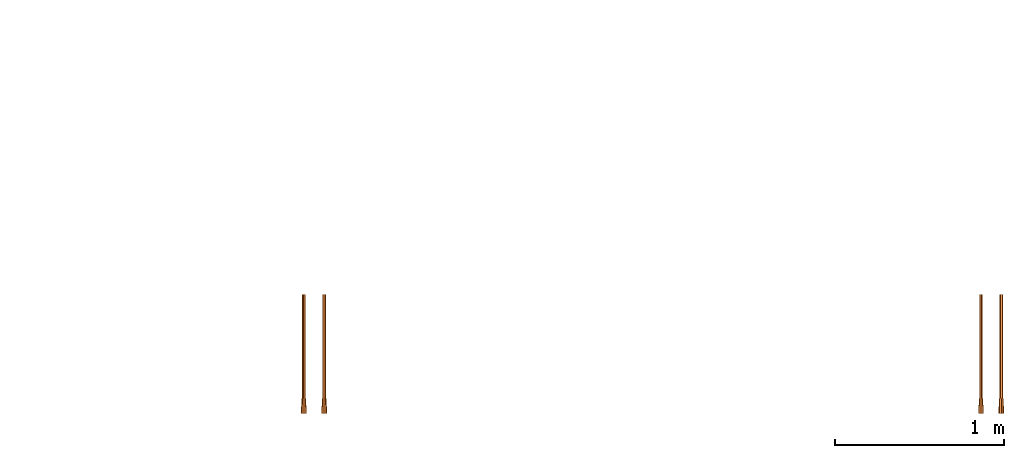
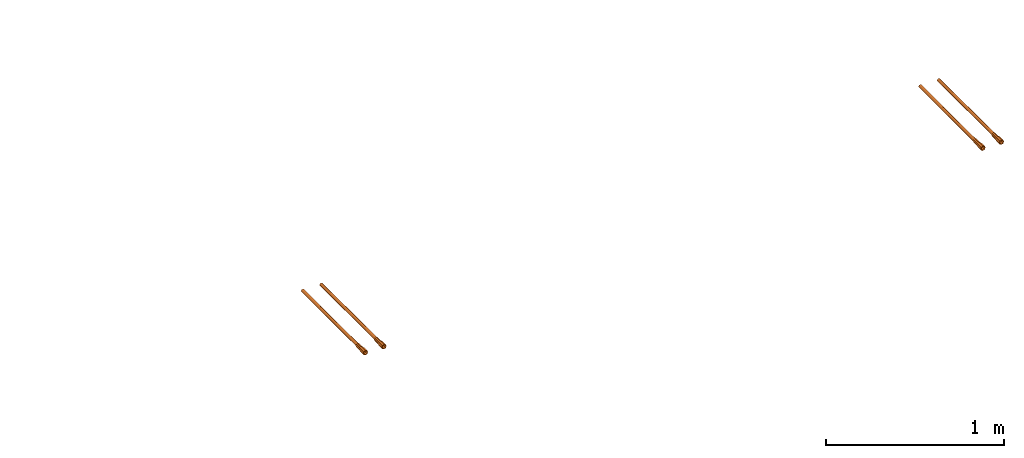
# One storey, part 8 of 8: 4 proxies.
"""IFC2X3 building model written with IfcOpenShell, lengths in millimetres."""

from ifc_helpers import new_model, entity, si_unit, converted_unit, derived_unit, direction, frame, frame_2d, origin, place, context, subcontext, project, spatial, circle, extrude, faceted_brep, source, transform, mapped, type_object, type_shapes, element, save


model = new_model("IFC2X3")

# Units and contexts
model_context = context("Model", 3, precision=0.01, world=origin(), true_north=direction((6.12303176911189e-17, 1.0)))
body_context = subcontext(model_context, "Body", "Model", "MODEL_VIEW")
ifc_project = project(units=[si_unit("LENGTHUNIT", "METRE", prefix="MILLI"), si_unit("AREAUNIT", "SQUARE_METRE"), si_unit("VOLUMEUNIT", "CUBIC_METRE"), converted_unit("PLANEANGLEUNIT", "DEGREE", entity("IfcRatioMeasure", 0.0174532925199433), si_unit("PLANEANGLEUNIT", "RADIAN"), dimensions=[0, 0, 0, 0, 0, 0, 0]), si_unit("MASSUNIT", "GRAM", prefix="KILO"), derived_unit("MASSDENSITYUNIT", [(si_unit("MASSUNIT", "GRAM", prefix="KILO"), 1), (si_unit("LENGTHUNIT", "METRE"), -3)]), si_unit("TIMEUNIT", "SECOND"), si_unit("FREQUENCYUNIT", "HERTZ"), si_unit("THERMODYNAMICTEMPERATUREUNIT", "DEGREE_CELSIUS"), derived_unit("THERMALTRANSMITTANCEUNIT", [(si_unit("MASSUNIT", "GRAM", prefix="KILO"), 1), (si_unit("THERMODYNAMICTEMPERATUREUNIT", "KELVIN"), -1), (si_unit("TIMEUNIT", "SECOND"), -3)]), derived_unit("VOLUMETRICFLOWRATEUNIT", [(si_unit("LENGTHUNIT", "METRE"), 3), (si_unit("TIMEUNIT", "SECOND"), -1)]), si_unit("ELECTRICCURRENTUNIT", "AMPERE"), si_unit("ELECTRICVOLTAGEUNIT", "VOLT"), si_unit("POWERUNIT", "WATT"), si_unit("FORCEUNIT", "NEWTON", prefix="KILO"), si_unit("ILLUMINANCEUNIT", "LUX"), si_unit("LUMINOUSFLUXUNIT", "LUMEN"), si_unit("LUMINOUSINTENSITYUNIT", "CANDELA"), derived_unit("USERDEFINED", [(si_unit("MASSUNIT", "GRAM", prefix="KILO"), -1), (si_unit("LENGTHUNIT", "METRE"), -2), (si_unit("TIMEUNIT", "SECOND"), 3), (si_unit("LUMINOUSFLUXUNIT", "LUMEN"), 1)]), derived_unit("LINEARVELOCITYUNIT", [(si_unit("LENGTHUNIT", "METRE"), 1), (si_unit("TIMEUNIT", "SECOND"), -1)]), si_unit("PRESSUREUNIT", "PASCAL"), derived_unit("USERDEFINED", [(si_unit("LENGTHUNIT", "METRE"), -2), (si_unit("MASSUNIT", "GRAM", prefix="KILO"), 1), (si_unit("TIMEUNIT", "SECOND"), -2)])], contexts=[model_context])

# Site, building, storey
site_placement = place(None, origin())
site = spatial("IfcSite", under=ifc_project, at=site_placement, Name="Default", CompositionType="ELEMENT")
building_placement = place(site_placement, origin())
building = spatial("IfcBuilding", under=site, at=building_placement, Name="niet gebruiken", CompositionType="ELEMENT")
storey_placement = place(building_placement, frame((0.0, 0.0, 3000.0)))
storey = spatial("IfcBuildingStorey", under=building, at=storey_placement, Name="00a eerste tussenverdieping", CompositionType="ELEMENT", Elevation=3000.00000000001)

# Proxies
building_element_proxy_type_1 = type_object("IfcBuildingElementProxyType", Name="Ø20/M24x705", PredefinedType="NOTDEFINED")
shared_shape_1 = source(origin(), body_context, "Body", "SolidModel", [
    extrude(circle(Radius=10.0, at=frame_2d((0.0, -1.61554457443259e-14), x_axis=(1.0, 0.0))), frame((34.9769027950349, 0.0, -705.0)), (0.0, 0.0, 1.0), 615.0),
    extrude(circle(Radius=10.0, at=frame_2d((0.0, -1.61554457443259e-14), x_axis=(1.0, 0.0))), frame((34.9769027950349, 0.0, -705.0)), (0.0, 0.0, 1.0), 615.0),
    faceted_brep([(29.3200485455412, 13.6568542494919, 0.0), (32.1484756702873, 14.8284271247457, 0.0), (34.9769027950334, 16.0, 0.0), (34.9769027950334, 16.0, -38.0), (32.1484756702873, 14.8284271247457, -38.0), (29.3200485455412, 13.6568542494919, -38.0), (26.4916214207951, 12.4852813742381, -38.0), (23.663194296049, 11.3137084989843, -38.0), (23.663194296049, 11.3137084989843, 0.0), (26.4916214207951, 12.4852813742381, 0.0), (49.805329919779, 2.82842712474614, 0.0), (50.9769027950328, 0.0, 0.0), (50.9769027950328, 0.0, -38.0), (50.0199937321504, 2.31018283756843, -38.0), (49.7680552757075, 2.91841607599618, -38.0), (48.6337570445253, 5.65685424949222, -38.0), (48.5592077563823, 5.83683215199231, -38.0), (47.4621841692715, 8.48528137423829, -38.0), (46.2906112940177, 11.3137084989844, -38.0), (46.2906112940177, 11.3137084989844, 0.0), (47.4621841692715, 8.48528137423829, 0.0), (48.6337570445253, 5.65685424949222, 0.0), (21.3200485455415, 5.65685424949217, 0.0), (22.4916214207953, 8.48528137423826, 0.0), (22.4916214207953, 8.48528137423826, -38.0), (22.2769576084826, 7.96703708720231, -38.0), (21.3200485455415, 5.65685424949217, -38.0), (20.8907209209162, 4.62036567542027, -38.0), (20.1484756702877, 2.82842712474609, -38.0), (18.976902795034, 0.0, -38.0), (18.976902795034, 0.0, 0.0), (20.1484756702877, 2.82842712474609, 0.0), (40.6337570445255, 13.6568542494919, 0.0), (43.4621841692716, 12.4852813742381, 0.0), (43.4621841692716, 12.4852813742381, -38.0), (40.6337570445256, 13.6568542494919, -38.0), (37.8053299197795, 14.8284271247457, -38.0), (37.8053299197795, 14.8284271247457, 0.0), (49.063084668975, -4.62036567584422, 0.0), (47.6768479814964, -7.96703708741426, 0.0), (46.2906112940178, -11.3137084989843, 0.0), (46.2906112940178, -11.3137084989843, -38.0), (47.4621841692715, -8.48528137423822, -38.0), (48.6337570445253, -5.65685424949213, -38.0), (49.8053299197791, -2.82842712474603, -38.0), (29.3200485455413, -13.6568542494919, 0.0), (26.4916214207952, -12.4852813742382, 0.0), (23.6631942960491, -11.3137084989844, 0.0), (23.6631942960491, -11.3137084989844, -38.0), (26.4916214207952, -12.4852813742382, -38.0), (29.3200485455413, -13.6568542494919, -38.0), (32.1484756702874, -14.8284271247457, -38.0), (34.9769027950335, -16.0, -38.0), (34.9769027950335, -16.0, 0.0), (32.1484756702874, -14.8284271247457, 0.0), (37.8053299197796, -14.8284271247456, -38.0), (40.6337570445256, -13.6568542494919, -38.0), (43.4621841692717, -12.4852813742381, -38.0), (43.4621841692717, -12.4852813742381, 0.0), (40.6337570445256, -13.6568542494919, 0.0), (37.8053299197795, -14.8284271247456, 0.0), (22.4916214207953, -8.48528137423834, 0.0), (21.3200485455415, -5.65685424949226, 0.0), (20.1484756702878, -2.82842712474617, 0.0), (19.9338118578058, -2.31018283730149, -38.0), (20.1857498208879, -2.91841488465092, -38.0), (21.3200485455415, -5.65685424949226, -38.0), (22.4916214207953, -8.48528137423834, -38.0), (25.7845146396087, 9.19238815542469, -52.0), (24.8628969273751, 6.96740617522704, -52.0), (23.9412792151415, 4.7424241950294, -52.0), (22.9590910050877, 2.3712120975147, -52.0), (21.976902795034, 0.0, -52.0), (44.1692909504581, 9.19238815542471, -52.0), (47.9769027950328, 0.0, -52.0), (46.994714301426, 2.37121278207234, -52.0), (46.0730968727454, 4.59619407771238, -52.0), (45.1211939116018, 6.89429111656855, -52.0), (34.9769027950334, 13.0, -52.0), (32.6788057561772, 12.0480970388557, -52.0), (30.380708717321, 11.096194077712, -52.0), (28.0826116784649, 10.1442911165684, -52.0), (37.2749998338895, 12.0480970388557, -52.0), (41.8711939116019, 10.1442911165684, -52.0), (39.5730968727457, 11.0961940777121, -52.0), (44.1692909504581, -9.19238815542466, -52.0), (45.0909086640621, -6.96740617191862, -52.0), (45.3722781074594, -6.28812024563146, -52.0), (46.0125263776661, -4.74242418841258, -52.0), (46.5752652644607, -3.38385233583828, -52.0), (46.9947145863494, -2.37121209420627, -52.0), (28.0826116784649, -10.1442911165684, -52.0), (30.3807087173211, -11.0961940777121, -52.0), (32.6788057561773, -12.0480970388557, -52.0), (34.9769027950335, -13.0, -52.0), (25.7845146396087, -9.19238815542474, -52.0), (37.2749998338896, -12.0480970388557, -52.0), (39.5730968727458, -11.096194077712, -52.0), (41.871193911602, -10.1442911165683, -52.0), (22.9288057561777, -2.29809703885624, -52.0), (23.8807087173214, -4.59619407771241, -52.0), (24.8326116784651, -6.89429111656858, -52.0), (32.6788057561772, 12.0480970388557, -90.0), (30.380708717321, 11.096194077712, -90.0), (28.0826116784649, 10.1442911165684, -90.0), (25.7845146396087, 9.19238815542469, -90.0), (34.9769027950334, 13.0, -90.0), (47.9769027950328, 0.0, -90.0), (47.2760840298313, 1.691926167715, -90.0), (46.0730968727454, 4.59619407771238, -90.0), (45.1211939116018, 6.89429111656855, -90.0), (44.1692909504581, 9.19238815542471, -90.0), (23.3785403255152, 3.38385233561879, -90.0), (21.976902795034, 0.0, -90.0), (24.5815274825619, 6.28812024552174, -90.0), (41.8711939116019, 10.1442911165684, -90.0), (39.5730968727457, 11.0961940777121, -90.0), (37.2749998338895, 12.0480970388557, -90.0), (46.0730968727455, -4.5961940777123, -90.0), (47.0249998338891, -2.29809703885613, -90.0), (44.1692909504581, -9.19238815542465, -90.0), (45.1211939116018, -6.89429111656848, -90.0), (25.7845146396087, -9.19238815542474, -90.0), (28.0826116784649, -10.1442911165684, -90.0), (30.3807087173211, -11.0961940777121, -90.0), (32.6788057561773, -12.0480970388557, -90.0), (34.9769027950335, -13.0, -90.0), (37.2749998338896, -12.0480970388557, -90.0), (39.5730968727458, -11.096194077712, -90.0), (41.871193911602, -10.1442911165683, -90.0), (22.6777215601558, -1.6919261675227, -90.0), (23.8807087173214, -4.59619407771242, -90.0), (24.8326116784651, -6.89429111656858, -90.0), (34.9769027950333, 0.0, -90.0), (34.9769027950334, 0.0, -38.0), (47.9769027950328, 0.0, -38.0), (47.2760840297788, 1.69192616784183, -38.0), (46.0730968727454, 4.59619407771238, -38.0), (45.1211939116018, 6.89429111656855, -38.0), (44.1692909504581, 9.19238815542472, -38.0), (41.8711939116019, 10.1442911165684, -38.0), (39.5730968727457, 11.0961940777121, -38.0), (37.2749998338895, 12.0480970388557, -38.0), (34.9769027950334, 13.0, -38.0), (32.6788057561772, 12.0480970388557, -38.0), (30.380708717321, 11.096194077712, -38.0), (28.0826116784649, 10.1442911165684, -38.0), (25.7845146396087, 9.19238815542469, -38.0), (24.5815274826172, 6.28812024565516, -38.0), (23.3785403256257, 3.38385233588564, -38.0), (21.976902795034, 0.0, -38.0), (22.6777215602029, -1.69192616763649, -38.0), (47.0249998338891, -2.29809703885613, -38.0), (46.0730968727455, -4.59619407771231, -38.0), (45.1211939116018, -6.89429111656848, -38.0), (44.1692909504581, -9.19238815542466, -38.0), (41.871193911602, -10.1442911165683, -38.0), (39.5730968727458, -11.096194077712, -38.0), (37.2749998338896, -12.0480970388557, -38.0), (34.9769027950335, -13.0, -38.0), (23.8807087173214, -4.59619407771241, -38.0), (24.8326116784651, -6.89429111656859, -38.0), (25.7845146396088, -9.19238815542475, -38.0), (28.0826116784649, -10.1442911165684, -38.0), (30.3807087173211, -11.0961940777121, -38.0), (32.6788057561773, -12.0480970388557, -38.0), (32.6788057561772, 12.0480970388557, 0.0), (30.380708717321, 11.096194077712, 0.0), (28.0826116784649, 10.1442911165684, 0.0), (25.7845146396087, 9.19238815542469, 0.0), (34.9769027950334, 13.0, 0.0), (47.9769027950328, 0.0, 0.0), (47.0249998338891, 2.29809703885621, 0.0), (46.0730968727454, 4.59619407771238, 0.0), (45.1211939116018, 6.89429111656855, 0.0), (44.1692909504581, 9.19238815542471, 0.0), (24.832611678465, 6.89429111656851, 0.0), (23.8807087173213, 4.59619407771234, 0.0), (22.9288057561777, 2.29809703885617, 0.0), (21.976902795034, 0.0, 0.0), (37.2749998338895, 12.0480970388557, 0.0), (41.8711939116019, 10.1442911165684, 0.0), (39.5730968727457, 11.0961940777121, 0.0), (44.1692909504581, -9.19238815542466, 0.0), (45.3722781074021, -6.28812024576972, 0.0), (46.5752652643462, -3.38385233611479, 0.0), (32.6788057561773, -12.0480970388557, 0.0), (34.9769027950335, -13.0, 0.0), (25.7845146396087, -9.19238815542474, 0.0), (28.0826116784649, -10.1442911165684, 0.0), (30.3807087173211, -11.0961940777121, 0.0), (37.2749998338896, -12.0480970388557, 0.0), (39.5730968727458, -11.096194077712, 0.0), (41.871193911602, -10.1442911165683, 0.0), (22.9288057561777, -2.29809703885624, 0.0), (23.8807087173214, -4.59619407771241, 0.0), (24.8326116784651, -6.89429111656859, 0.0)], [[[0, 1, 2, 3, 4, 5, 6, 7, 8, 9]], [[10, 11, 12, 13, 14, 15, 16, 17, 18, 19, 20, 21]], [[22, 23, 8, 7, 24, 25, 26, 27, 28, 29, 30, 31]], [[32, 33, 19, 18, 34, 35, 36, 3, 2, 37]], [[38, 39, 40, 41, 42, 43, 44, 12, 11]], [[45, 46, 47, 48, 49, 50, 51, 52, 53, 54]], [[53, 52, 55, 56, 57, 41, 40, 58, 59, 60]], [[48, 47, 61, 62, 63, 30, 29, 64, 65, 66, 67]], [[7, 68, 69, 70, 71, 72, 29, 28, 27, 26, 25, 24]], [[73, 18, 17, 16, 15, 14, 13, 12, 74, 75, 76, 77]], [[4, 3, 78, 79, 80, 81, 68, 7, 6, 5]], [[82, 78, 3, 36, 35, 34, 18, 73, 83, 84]], [[41, 85, 86, 87, 88, 89, 90, 74, 12, 44, 43, 42]], [[91, 92, 93, 94, 52, 51, 50, 49, 48, 95]], [[55, 52, 94, 96, 97, 98, 85, 41, 57, 56]], [[99, 100, 101, 95, 48, 67, 66, 65, 64, 29, 72]], [[102, 103, 104, 105, 68, 81, 80, 79, 78, 106]], [[75, 74, 107, 108, 109, 110, 111, 73, 77, 76]], [[112, 113, 72, 71, 70, 69, 68, 105, 114]], [[84, 83, 73, 111, 115, 116, 117, 106, 78, 82]], [[118, 119, 107, 74, 90, 89, 88, 87, 86, 85, 120, 121]], [[92, 91, 95, 122, 123, 124, 125, 126, 94, 93]], [[94, 126, 127, 128, 129, 120, 85, 98, 97, 96]], [[122, 95, 101, 100, 99, 72, 113, 130, 131, 132]], [[133, 111, 110]], [[133, 110, 109]], [[133, 109, 108]], [[133, 108, 107]], [[133, 107, 119]], [[133, 115, 111]], [[133, 116, 115]], [[133, 117, 116]], [[133, 106, 117]], [[133, 102, 106]], [[133, 103, 102]], [[133, 104, 103]], [[133, 105, 104]], [[133, 114, 105]], [[133, 112, 114]], [[133, 113, 112]], [[133, 119, 118]], [[133, 118, 121]], [[133, 121, 120]], [[133, 120, 129]], [[133, 129, 128]], [[133, 128, 127]], [[133, 127, 126]], [[133, 126, 125]], [[133, 130, 113]], [[133, 131, 130]], [[133, 132, 131]], [[133, 122, 132]], [[133, 125, 124]], [[133, 124, 123]], [[133, 123, 122]], [[134, 135, 136]], [[134, 136, 137]], [[134, 137, 138]], [[134, 138, 139]], [[134, 139, 140]], [[134, 140, 141]], [[134, 141, 142]], [[134, 142, 143]], [[134, 143, 144]], [[134, 144, 145]], [[134, 145, 146]], [[134, 146, 147]], [[134, 147, 148]], [[134, 148, 149]], [[134, 149, 150]], [[134, 150, 151]], [[134, 152, 135]], [[134, 153, 152]], [[134, 154, 153]], [[134, 155, 154]], [[134, 156, 155]], [[134, 157, 156]], [[134, 158, 157]], [[134, 159, 158]], [[134, 151, 160]], [[134, 160, 161]], [[134, 161, 162]], [[134, 162, 163]], [[134, 163, 164]], [[134, 164, 165]], [[134, 165, 159]], [[166, 167, 168, 169, 147, 146, 145, 144, 143, 170]], [[136, 135, 171, 172, 173, 174, 175, 139, 138, 137]], [[148, 147, 169, 176, 177, 178, 179, 150, 149]], [[180, 170, 143, 142, 141, 140, 139, 175, 181, 182]], [[153, 154, 155, 183, 184, 185, 171, 135, 152]], [[186, 187, 159, 165, 164, 163, 162, 188, 189, 190]], [[158, 159, 187, 191, 192, 193, 183, 155, 156, 157]], [[161, 160, 151, 150, 179, 194, 195, 196, 188, 162]], [[171, 11, 10]], [[171, 10, 21]], [[171, 21, 20]], [[171, 20, 19]], [[19, 172, 171]], [[171, 38, 11]], [[171, 39, 38]], [[171, 40, 39]], [[40, 171, 185]], [[40, 185, 184]], [[40, 184, 183]], [[183, 58, 40]], [[183, 59, 58]], [[183, 60, 59]], [[183, 53, 60]], [[53, 183, 193]], [[53, 193, 192]], [[53, 192, 191]], [[53, 191, 187]], [[53, 187, 186]], [[53, 186, 190]], [[53, 190, 189]], [[53, 189, 188]], [[188, 54, 53]], [[188, 45, 54]], [[188, 46, 45]], [[188, 47, 46]], [[47, 188, 196]], [[47, 196, 195]], [[47, 195, 194]], [[47, 194, 179]], [[179, 61, 47]], [[179, 62, 61]], [[179, 63, 62]], [[179, 30, 63]], [[179, 31, 30]], [[179, 22, 31]], [[179, 23, 22]], [[179, 8, 23]], [[8, 179, 178]], [[8, 178, 177]], [[8, 177, 176]], [[8, 176, 169]], [[169, 9, 8]], [[169, 0, 9]], [[169, 1, 0]], [[169, 2, 1]], [[2, 169, 168]], [[2, 168, 167]], [[2, 167, 166]], [[2, 166, 170]], [[2, 170, 180]], [[2, 180, 182]], [[2, 182, 181]], [[2, 181, 175]], [[175, 19, 33]], [[19, 175, 174]], [[175, 33, 32]], [[175, 32, 37]], [[175, 37, 2]], [[19, 174, 173]], [[19, 173, 172]]]),
])
type_shapes(building_element_proxy_type_1, [shared_shape_1])
for number, where, z_axis, x_axis in (
    (1, (151775.023097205, 150.0, 2655.0), (0.0, -1.0, 0.0), (1.0, 0.0, 0.0)),
    (2, (155775.023097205, 150.0, 2655.0), (0.0, -1.0, 0.0), (1.0, 0.0, 0.0)),
):
    element("IfcBuildingElementProxy", number, at=place(storey_placement, frame(where, z_axis=z_axis, x_axis=x_axis)), inside=storey, type_object=building_element_proxy_type_1, Name="GM_Stekanker_DEMU_4010 GV:Ø20/M24x705", ObjectType="Ø20/M24x705", context=body_context, shape_type="MappedRepresentation", body=[
        mapped(shared_shape_1, transform((0.0, 0.0, 0.0), scale=1.0)),
    ])
building_element_proxy_type_2 = type_object("IfcBuildingElementProxyType", Name="Ø20/M24x705", PredefinedType="NOTDEFINED")
shared_shape_2 = source(origin(), body_context, "Body", "SolidModel", [
    extrude(circle(Radius=10.0, at=frame_2d((0.0, -4.50212443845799e-14), x_axis=(1.0, 0.0))), frame((34.9769027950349, 0.0, -705.0)), (0.0, 0.0, 1.0), 615.0),
    extrude(circle(Radius=10.0, at=frame_2d((0.0, -4.50212443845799e-14), x_axis=(1.0, 0.0))), frame((34.9769027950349, 0.0, -705.0)), (0.0, 0.0, 1.0), 615.0),
    faceted_brep([(26.4916214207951, -12.4852813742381, 0.0), (23.663194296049, -11.3137084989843, 0.0), (23.663194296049, -11.3137084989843, -38.0), (26.4916214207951, -12.4852813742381, -38.0), (29.3200485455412, -13.6568542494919, -38.0), (32.1484756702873, -14.8284271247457, -38.0), (34.9769027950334, -16.0, -38.0), (34.9769027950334, -16.0, 0.0), (32.1484756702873, -14.8284271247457, 0.0), (29.3200485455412, -13.6568542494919, 0.0), (50.0199937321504, -2.31018283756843, -38.0), (50.9769027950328, 0.0, -38.0), (50.9769027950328, 0.0, 0.0), (49.805329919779, -2.82842712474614, 0.0), (48.6337570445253, -5.65685424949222, 0.0), (47.4621841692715, -8.48528137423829, 0.0), (46.2906112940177, -11.3137084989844, 0.0), (46.2906112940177, -11.3137084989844, -38.0), (47.4621841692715, -8.48528137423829, -38.0), (48.5592077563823, -5.83683215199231, -38.0), (48.6337570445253, -5.65685424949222, -38.0), (49.7680552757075, -2.91841607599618, -38.0), (21.3200485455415, -5.65685424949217, 0.0), (20.1484756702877, -2.82842712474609, 0.0), (18.976902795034, 0.0, 0.0), (18.976902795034, 0.0, -38.0), (20.1484756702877, -2.82842712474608, -38.0), (20.8907209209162, -4.62036567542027, -38.0), (21.3200485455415, -5.65685424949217, -38.0), (22.2769576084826, -7.9670370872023, -38.0), (22.4916214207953, -8.48528137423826, -38.0), (22.4916214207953, -8.48528137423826, 0.0), (37.8053299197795, -14.8284271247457, 0.0), (37.8053299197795, -14.8284271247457, -38.0), (40.6337570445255, -13.6568542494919, -38.0), (43.4621841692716, -12.4852813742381, -38.0), (43.4621841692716, -12.4852813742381, 0.0), (40.6337570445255, -13.6568542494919, 0.0), (48.6337570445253, 5.65685424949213, -38.0), (47.4621841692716, 8.48528137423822, -38.0), (46.2906112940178, 11.3137084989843, -38.0), (46.2906112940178, 11.3137084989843, 0.0), (47.6768479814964, 7.96703708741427, 0.0), (49.063084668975, 4.62036567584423, 0.0), (49.8053299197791, 2.82842712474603, -38.0), (32.1484756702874, 14.8284271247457, 0.0), (34.9769027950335, 16.0, 0.0), (34.9769027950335, 16.0, -38.0), (32.1484756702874, 14.8284271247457, -38.0), (29.3200485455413, 13.6568542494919, -38.0), (26.4916214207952, 12.4852813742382, -38.0), (23.6631942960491, 11.3137084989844, -38.0), (23.6631942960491, 11.3137084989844, 0.0), (26.4916214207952, 12.4852813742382, 0.0), (29.3200485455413, 13.6568542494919, 0.0), (37.8053299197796, 14.8284271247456, -38.0), (37.8053299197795, 14.8284271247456, 0.0), (40.6337570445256, 13.6568542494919, 0.0), (43.4621841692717, 12.4852813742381, 0.0), (43.4621841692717, 12.4852813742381, -38.0), (40.6337570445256, 13.6568542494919, -38.0), (22.4916214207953, 8.48528137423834, -38.0), (21.3200485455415, 5.65685424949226, -38.0), (20.1857498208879, 2.91841488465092, -38.0), (19.9338118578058, 2.31018283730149, -38.0), (20.1484756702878, 2.82842712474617, 0.0), (21.3200485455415, 5.65685424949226, 0.0), (22.4916214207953, 8.48528137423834, 0.0), (24.8628969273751, -6.96740617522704, -52.0), (25.7845146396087, -9.19238815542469, -52.0), (21.976902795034, 0.0, -52.0), (22.9590910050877, -2.3712120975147, -52.0), (23.9412792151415, -4.7424241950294, -52.0), (45.1211939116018, -6.89429111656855, -52.0), (46.0730968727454, -4.59619407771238, -52.0), (46.994714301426, -2.37121278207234, -52.0), (47.9769027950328, 0.0, -52.0), (44.1692909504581, -9.19238815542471, -52.0), (34.9769027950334, -13.0, -52.0), (28.0826116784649, -10.1442911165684, -52.0), (30.380708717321, -11.096194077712, -52.0), (32.6788057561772, -12.0480970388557, -52.0), (37.2749998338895, -12.0480970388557, -52.0), (39.5730968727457, -11.0961940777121, -52.0), (41.8711939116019, -10.1442911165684, -52.0), (45.0909086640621, 6.96740617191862, -52.0), (44.1692909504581, 9.19238815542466, -52.0), (46.9947145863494, 2.37121209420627, -52.0), (46.5752652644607, 3.38385233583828, -52.0), (46.0125263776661, 4.74242418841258, -52.0), (45.3722781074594, 6.28812024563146, -52.0), (34.9769027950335, 13.0, -52.0), (32.6788057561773, 12.0480970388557, -52.0), (30.3807087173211, 11.0961940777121, -52.0), (28.0826116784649, 10.1442911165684, -52.0), (25.7845146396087, 9.19238815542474, -52.0), (41.871193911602, 10.1442911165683, -52.0), (39.5730968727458, 11.096194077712, -52.0), (37.2749998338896, 12.0480970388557, -52.0), (22.9288057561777, 2.29809703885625, -52.0), (24.8326116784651, 6.89429111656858, -52.0), (23.8807087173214, 4.59619407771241, -52.0), (25.7845146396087, -9.19238815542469, -90.0), (28.0826116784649, -10.1442911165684, -90.0), (30.380708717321, -11.096194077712, -90.0), (32.6788057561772, -12.0480970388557, -90.0), (34.9769027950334, -13.0, -90.0), (47.2760840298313, -1.691926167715, -90.0), (47.9769027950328, 0.0, -90.0), (44.1692909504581, -9.19238815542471, -90.0), (45.1211939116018, -6.89429111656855, -90.0), (46.0730968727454, -4.59619407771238, -90.0), (24.5815274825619, -6.28812024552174, -90.0), (21.976902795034, 0.0, -90.0), (23.3785403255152, -3.38385233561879, -90.0), (37.2749998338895, -12.0480970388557, -90.0), (39.5730968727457, -11.0961940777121, -90.0), (41.8711939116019, -10.1442911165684, -90.0), (46.0730968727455, 4.5961940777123, -90.0), (45.1211939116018, 6.89429111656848, -90.0), (44.1692909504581, 9.19238815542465, -90.0), (47.0249998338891, 2.29809703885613, -90.0), (34.9769027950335, 13.0, -90.0), (32.6788057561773, 12.0480970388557, -90.0), (30.3807087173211, 11.0961940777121, -90.0), (28.0826116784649, 10.1442911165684, -90.0), (25.7845146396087, 9.19238815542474, -90.0), (37.2749998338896, 12.0480970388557, -90.0), (41.871193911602, 10.1442911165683, -90.0), (39.5730968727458, 11.096194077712, -90.0), (24.8326116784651, 6.89429111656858, -90.0), (23.8807087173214, 4.59619407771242, -90.0), (22.6777215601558, 1.6919261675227, -90.0), (34.9769027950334, 0.0, -90.0), (34.9769027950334, 0.0, -38.0), (44.1692909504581, -9.19238815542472, -38.0), (45.1211939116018, -6.89429111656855, -38.0), (46.0730968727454, -4.59619407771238, -38.0), (47.2760840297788, -1.69192616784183, -38.0), (47.9769027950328, 0.0, -38.0), (47.0249998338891, 2.29809703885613, -38.0), (41.8711939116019, -10.1442911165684, -38.0), (39.5730968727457, -11.0961940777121, -38.0), (37.2749998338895, -12.0480970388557, -38.0), (34.9769027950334, -13.0, -38.0), (32.6788057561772, -12.0480970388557, -38.0), (30.380708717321, -11.096194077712, -38.0), (28.0826116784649, -10.1442911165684, -38.0), (25.7845146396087, -9.19238815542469, -38.0), (24.5815274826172, -6.28812024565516, -38.0), (23.3785403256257, -3.38385233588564, -38.0), (21.976902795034, 0.0, -38.0), (46.0730968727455, 4.59619407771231, -38.0), (45.1211939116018, 6.89429111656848, -38.0), (44.1692909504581, 9.19238815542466, -38.0), (41.871193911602, 10.1442911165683, -38.0), (39.5730968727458, 11.096194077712, -38.0), (37.2749998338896, 12.0480970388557, -38.0), (34.9769027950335, 13.0, -38.0), (32.6788057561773, 12.0480970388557, -38.0), (22.6777215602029, 1.69192616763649, -38.0), (23.8807087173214, 4.59619407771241, -38.0), (24.8326116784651, 6.89429111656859, -38.0), (25.7845146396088, 9.19238815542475, -38.0), (30.3807087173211, 11.0961940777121, -38.0), (28.0826116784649, 10.1442911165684, -38.0), (25.7845146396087, -9.19238815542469, 0.0), (28.0826116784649, -10.1442911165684, 0.0), (30.380708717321, -11.096194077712, 0.0), (32.6788057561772, -12.0480970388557, 0.0), (34.9769027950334, -13.0, 0.0), (47.0249998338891, -2.29809703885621, 0.0), (47.9769027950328, 0.0, 0.0), (44.1692909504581, -9.19238815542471, 0.0), (45.1211939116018, -6.89429111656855, 0.0), (46.0730968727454, -4.59619407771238, 0.0), (21.976902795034, 0.0, 0.0), (22.9288057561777, -2.29809703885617, 0.0), (23.8807087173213, -4.59619407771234, 0.0), (24.832611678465, -6.89429111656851, 0.0), (39.5730968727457, -11.0961940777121, 0.0), (41.8711939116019, -10.1442911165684, 0.0), (37.2749998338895, -12.0480970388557, 0.0), (46.5752652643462, 3.38385233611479, 0.0), (45.3722781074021, 6.28812024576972, 0.0), (44.1692909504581, 9.19238815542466, 0.0), (30.3807087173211, 11.0961940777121, 0.0), (28.0826116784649, 10.1442911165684, 0.0), (25.7845146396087, 9.19238815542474, 0.0), (34.9769027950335, 13.0, 0.0), (32.6788057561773, 12.0480970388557, 0.0), (41.871193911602, 10.1442911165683, 0.0), (39.5730968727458, 11.096194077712, 0.0), (37.2749998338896, 12.0480970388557, 0.0), (24.8326116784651, 6.89429111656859, 0.0), (23.8807087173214, 4.59619407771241, 0.0), (22.9288057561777, 2.29809703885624, 0.0)], [[[0, 1, 2, 3, 4, 5, 6, 7, 8, 9]], [[10, 11, 12, 13, 14, 15, 16, 17, 18, 19, 20, 21]], [[22, 23, 24, 25, 26, 27, 28, 29, 30, 2, 1, 31]], [[32, 7, 6, 33, 34, 35, 17, 16, 36, 37]], [[38, 39, 40, 41, 42, 43, 12, 11, 44]], [[45, 46, 47, 48, 49, 50, 51, 52, 53, 54]], [[55, 47, 46, 56, 57, 58, 41, 40, 59, 60]], [[61, 62, 63, 64, 25, 24, 65, 66, 67, 52, 51]], [[68, 69, 2, 30, 29, 28, 27, 26, 25, 70, 71, 72]], [[73, 74, 75, 76, 11, 10, 21, 20, 19, 18, 17, 77]], [[78, 6, 5, 4, 3, 2, 69, 79, 80, 81]], [[33, 6, 78, 82, 83, 84, 77, 17, 35, 34]], [[85, 86, 40, 39, 38, 44, 11, 76, 87, 88, 89, 90]], [[49, 48, 47, 91, 92, 93, 94, 95, 51, 50]], [[91, 47, 55, 60, 59, 40, 86, 96, 97, 98]], [[99, 70, 25, 64, 63, 62, 61, 51, 95, 100, 101]], [[81, 80, 79, 69, 102, 103, 104, 105, 106, 78]], [[107, 108, 76, 75, 74, 73, 77, 109, 110, 111]], [[112, 102, 69, 68, 72, 71, 70, 113, 114]], [[82, 78, 106, 115, 116, 117, 109, 77, 84, 83]], [[118, 119, 120, 86, 85, 90, 89, 88, 87, 76, 108, 121]], [[92, 91, 122, 123, 124, 125, 126, 95, 94, 93]], [[127, 122, 91, 98, 97, 96, 86, 120, 128, 129]], [[130, 131, 132, 113, 70, 99, 101, 100, 95, 126]], [[133, 108, 107]], [[133, 107, 111]], [[133, 111, 110]], [[133, 110, 109]], [[133, 109, 117]], [[133, 117, 116]], [[133, 116, 115]], [[133, 115, 106]], [[133, 106, 105]], [[133, 105, 104]], [[133, 104, 103]], [[133, 103, 102]], [[133, 102, 112]], [[133, 112, 114]], [[133, 114, 113]], [[133, 113, 132]], [[133, 121, 108]], [[133, 118, 121]], [[133, 119, 118]], [[133, 120, 119]], [[133, 128, 120]], [[133, 129, 128]], [[133, 127, 129]], [[133, 122, 127]], [[133, 132, 131]], [[133, 131, 130]], [[133, 130, 126]], [[133, 126, 125]], [[133, 125, 124]], [[133, 124, 123]], [[133, 123, 122]], [[134, 135, 136]], [[134, 136, 137]], [[134, 137, 138]], [[134, 138, 139]], [[134, 139, 140]], [[134, 141, 135]], [[134, 142, 141]], [[134, 143, 142]], [[134, 144, 143]], [[134, 145, 144]], [[134, 146, 145]], [[134, 147, 146]], [[134, 148, 147]], [[134, 149, 148]], [[134, 150, 149]], [[134, 151, 150]], [[134, 140, 152]], [[134, 152, 153]], [[134, 153, 154]], [[134, 154, 155]], [[134, 155, 156]], [[134, 156, 157]], [[134, 157, 158]], [[134, 158, 159]], [[134, 160, 151]], [[134, 161, 160]], [[134, 162, 161]], [[134, 163, 162]], [[134, 159, 164]], [[134, 164, 165]], [[134, 165, 163]], [[145, 146, 147, 148, 166, 167, 168, 169, 170, 144]], [[171, 172, 139, 138, 137, 136, 135, 173, 174, 175]], [[150, 151, 176, 177, 178, 179, 166, 148, 149]], [[180, 181, 173, 135, 141, 142, 143, 144, 170, 182]], [[183, 184, 185, 154, 153, 152, 140, 139, 172]], [[186, 187, 188, 163, 165, 164, 159, 158, 189, 190]], [[189, 158, 157, 156, 155, 154, 185, 191, 192, 193]], [[163, 188, 194, 195, 196, 176, 151, 160, 161, 162]], [[172, 16, 15]], [[16, 172, 171]], [[172, 15, 14]], [[172, 14, 13]], [[172, 13, 12]], [[172, 12, 43]], [[172, 43, 42]], [[172, 42, 41]], [[41, 183, 172]], [[16, 171, 175]], [[16, 175, 174]], [[16, 174, 173]], [[173, 36, 16]], [[173, 37, 36]], [[173, 32, 37]], [[173, 7, 32]], [[7, 173, 181]], [[7, 181, 180]], [[7, 180, 182]], [[7, 182, 170]], [[7, 170, 169]], [[7, 169, 168]], [[7, 168, 167]], [[7, 167, 166]], [[166, 8, 7]], [[166, 9, 8]], [[166, 0, 9]], [[166, 1, 0]], [[1, 166, 179]], [[1, 179, 178]], [[1, 178, 177]], [[1, 177, 176]], [[176, 31, 1]], [[176, 22, 31]], [[176, 23, 22]], [[176, 24, 23]], [[176, 65, 24]], [[176, 66, 65]], [[176, 67, 66]], [[176, 52, 67]], [[52, 176, 196]], [[52, 196, 195]], [[52, 195, 194]], [[52, 194, 188]], [[188, 53, 52]], [[188, 54, 53]], [[188, 45, 54]], [[188, 46, 45]], [[46, 188, 187]], [[46, 187, 186]], [[46, 186, 190]], [[46, 190, 189]], [[46, 189, 193]], [[46, 193, 192]], [[46, 192, 191]], [[46, 191, 185]], [[185, 41, 58]], [[41, 185, 184]], [[185, 58, 57]], [[185, 57, 56]], [[185, 56, 46]], [[41, 184, 183]]]),
])
type_shapes(building_element_proxy_type_2, [shared_shape_2])
for number, where, z_axis, x_axis in (
    (3, (151724.976902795, 150.0, 2655.0), (0.0, -1.0, 0.0), (-1.0, 0.0, 0.0)),
    (4, (155724.976902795, 150.0, 2655.0), (0.0, -1.0, 0.0), (-1.0, 0.0, 0.0)),
):
    element("IfcBuildingElementProxy", number, at=place(storey_placement, frame(where, z_axis=z_axis, x_axis=x_axis)), inside=storey, type_object=building_element_proxy_type_2, Name="GM_Stekanker_DEMU_4010 GV:Ø20/M24x705", ObjectType="Ø20/M24x705", context=body_context, shape_type="MappedRepresentation", body=[
        mapped(shared_shape_2, transform((0.0, 0.0, 0.0), scale=1.0)),
    ])

save(model, "model.ifc")
